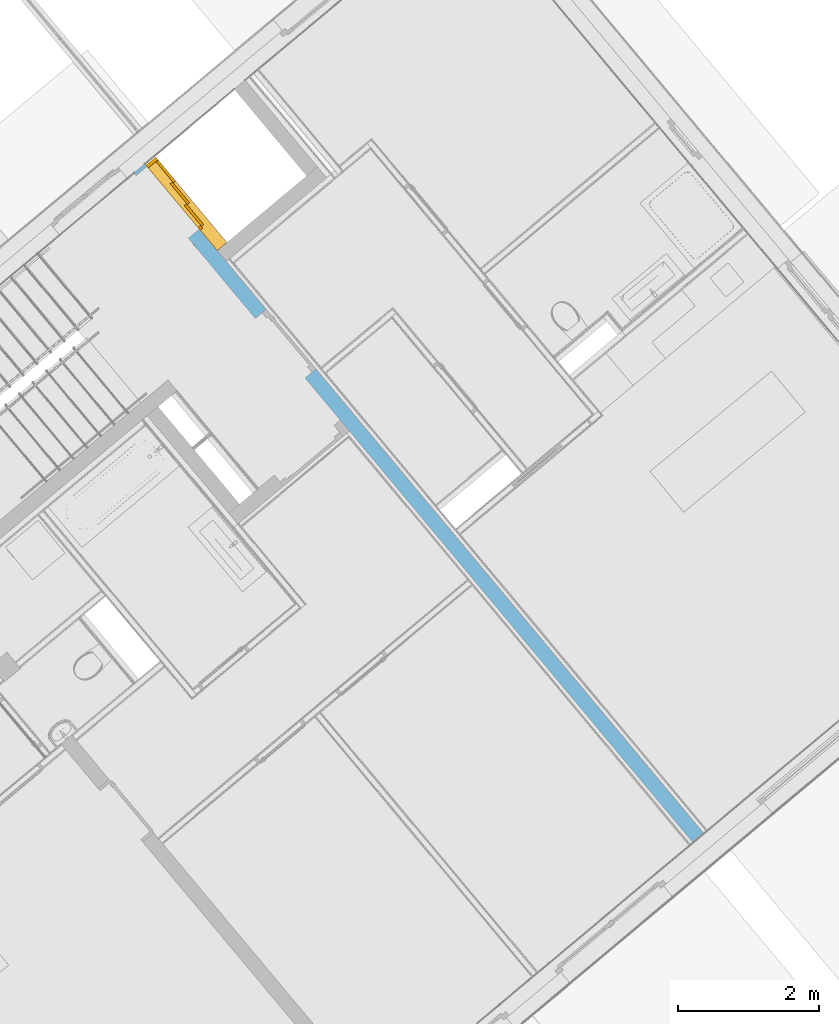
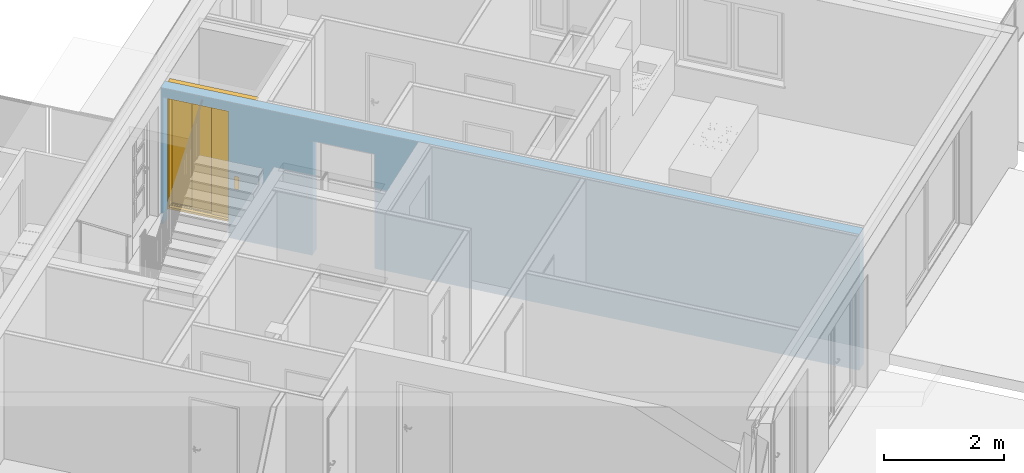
# One storey, part 9 of 75: 1 door, 2 openings, plus 1 element that does not belong to this part.
"""IFC4 building model written with IfcOpenShell, lengths in metres."""

from ifc_helpers import new_model, entity, si_unit, converted_unit, derived_unit, direction, frame, origin_with_axes, place, context, subcontext, project, spatial, polygons, source, transform, mapped, material, type_object, element, fill, save


model = new_model("IFC4")

# Units and contexts
model_context = context("Model", 3, precision=1e-05, world=origin_with_axes(), true_north=direction((0.0, 1.0)))
body_context = subcontext(model_context, "Body", "Model", "MODEL_VIEW")
ifc_project = project(units=[si_unit("LENGTHUNIT", "METRE"), si_unit("AREAUNIT", "SQUARE_METRE"), si_unit("VOLUMEUNIT", "CUBIC_METRE"), converted_unit("PLANEANGLEUNIT", "DEGREE", entity("IfcPlaneAngleMeasure", 0.0174532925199), si_unit("PLANEANGLEUNIT", "RADIAN"), dimensions=[0, 0, 0, 0, 0, 0, 0]), converted_unit("TIMEUNIT", "Year", entity("IfcTimeMeasure", 31556926.0), si_unit("TIMEUNIT", "SECOND"), dimensions=[0, 0, 1, 0, 0, 0, 0]), si_unit("MASSUNIT", "GRAM", prefix="KILO"), si_unit("THERMODYNAMICTEMPERATUREUNIT", "DEGREE_CELSIUS"), si_unit("LUMINOUSINTENSITYUNIT", "LUMEN"), si_unit("ENERGYUNIT", "JOULE", prefix="MEGA"), derived_unit("THERMALCONDUCTANCEUNIT", [(si_unit("POWERUNIT", "WATT"), 1), (si_unit("LENGTHUNIT", "METRE"), -1), (si_unit("THERMODYNAMICTEMPERATUREUNIT", "KELVIN"), -1)]), derived_unit("SPECIFICHEATCAPACITYUNIT", [(si_unit("ENERGYUNIT", "JOULE"), 1), (si_unit("MASSUNIT", "GRAM", prefix="KILO"), -1), (si_unit("THERMODYNAMICTEMPERATUREUNIT", "KELVIN"), -1)]), derived_unit("MASSDENSITYUNIT", [(si_unit("MASSUNIT", "GRAM", prefix="KILO"), 1), (si_unit("VOLUMEUNIT", "CUBIC_METRE"), -1)])], contexts=[model_context])

# Site, building, storey
site_placement = place(None, frame((-0.00153261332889, -0.00661245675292, 0.0), z_axis=(0.0, 0.0, 1.0), x_axis=(1.0, 0.0, 0.0)))
site = spatial("IfcSite", under=ifc_project, at=site_placement, Name="Gelände", CompositionType="ELEMENT")
building_placement = place(site_placement, origin_with_axes())
building = spatial("IfcBuilding", under=site, at=building_placement, Name="Gebäude", CompositionType="ELEMENT")
storey_placement = place(building_placement, frame((0.0, 0.0, -0.22), z_axis=(0.0, 0.0, 1.0), x_axis=(1.0, 0.0, 0.0)))
storey = spatial("IfcBuildingStorey", under=building, at=storey_placement, Name="EG", CompositionType="ELEMENT", Elevation=-0.22)

# Wall, openings, door
ifc_material = material(Name="Stahlbeton Wand")
wall_type = type_object("IfcWallType", Name="Stahlbeton Wand 200", PredefinedType="NOTDEFINED")
wall_placement = place(storey_placement, frame((8.26096619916, 16.5219342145, 0.0), z_axis=(0.0, 0.0, 1.0), x_axis=(-0.640845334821, 0.767670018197, 0.0)))
wall = element("IfcWall", 1, at=wall_placement, inside=storey, type_object=wall_type, material=ifc_material, Name="Wand-003", PredefinedType="NOTDEFINED", context=body_context, shape_type="Tessellation", body=[
    polygons([(12.3191850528, 4.58202649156e-08, 2.57), (12.3191850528, 9.38576860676e-09, 0.22), (12.3191850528, 9.38576505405e-09, 0.0), (12.3653297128, 0.0, 0.0), (12.3653297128, 0.0, 2.76), (0.0, 0.0, 2.76), (0.0, 0.0, 0.0), (8.58020969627, 4.58202684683e-08, 0.0), (8.58020969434, 4.58202684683e-08, 0.22), (8.58020969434, 4.5820272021e-08, 2.32), (9.68020969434, 4.58202684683e-08, 2.32), (9.68020969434, 1.84487696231e-08, 0.22), (9.68020969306, 1.84487696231e-08, 0.0), (11.1591850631, 4.1292480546e-10, 0.0), (11.1591850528, 4.1292480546e-10, 0.22), (11.1591850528, 4.58202684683e-08, 2.57), (12.3191850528, 0.2, 2.57), (12.3191850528, 0.2, 0.22), (12.3191850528, 0.2, 0.0), (12.3652348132, 0.2, 0.0), (12.3652348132, 0.2, 2.76), (0.0, 0.2, 2.76), (0.0, 0.2, 0.0), (8.58020969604, 0.2, 0.0), (8.58020969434, 0.2, 0.22), (8.58020969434, 0.075, 0.22), (8.58020969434, 0.2, 2.32), (9.68020969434, 0.2, 2.32), (9.68020969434, 0.2, 0.22), (9.68020969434, 0.075, 0.22), (9.68020969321, 0.2, 0.0), (11.1591850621, 0.2, 0.0), (11.1591850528, 0.2, 0.22), (11.1591850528, 0.2, 2.57)], [[[1, 2, 3, 4, 5, 6, 7, 8, 9, 10, 11, 12, 13, 14, 15, 16]], [[2, 1, 17, 18]], [[2, 18, 19, 3]], [[20, 4, 3, 19]], [[20, 21, 5, 4]], [[21, 22, 6, 5]], [[23, 7, 6, 22]], [[7, 23, 24, 8]], [[8, 24, 25, 26, 9]], [[26, 25, 27, 10, 9]], [[10, 27, 28, 11]], [[11, 28, 29, 30, 12]], [[29, 31, 13, 12, 30]], [[13, 31, 32, 14]], [[33, 15, 14, 32]], [[16, 15, 33, 34]], [[1, 16, 34, 17]], [[34, 33, 32, 31, 29, 28, 27, 25, 24, 23, 22, 21, 20, 19, 18, 17]]], closed=True),
])
opening_1_placement = place(wall_placement, frame((9.13020969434, 0.0, 0.22), z_axis=(0.0, 0.0, 1.0), x_axis=(1.0, 0.0, 0.0)))
element("IfcOpeningElement", 2, at=opening_1_placement, cuts=wall, Name="Tür-001", context=body_context, identifier="Reference", shape_type="Tessellation", body=[
    polygons([(-0.55, 0.075, -0.22), (-0.55, 0.075, 2.1), (-0.55, 6.48838227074, 2.1), (-0.55, 6.48838227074, -0.22), (-0.55, -6.28838227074, -0.22), (-0.55, -6.28838227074, 2.1), (0.55, 0.075, 2.1), (0.55, 6.48838227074, 2.1), (0.55, -6.28838227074, 2.1), (0.55, 6.48838227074, -0.22), (0.55, 0.075, -0.22), (0.55, -6.28838227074, -0.22)], [[[1, 2, 3, 4]], [[2, 1, 5, 6]], [[7, 8, 3, 2, 6, 9]], [[8, 10, 4, 3]], [[1, 4, 10, 11, 12, 5]], [[6, 5, 12, 9]], [[7, 11, 10, 8]], [[11, 7, 9, 12]]], closed=True),
])
opening_2_placement = place(wall_placement, frame((11.7391850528, 0.0, 0.22), z_axis=(0.0, 0.0, 1.0), x_axis=(1.0, 0.0, 0.0)))
opening_2 = element("IfcOpeningElement", 3, at=opening_2_placement, cuts=wall, Name="Tür-003", context=body_context, identifier="Reference", shape_type="Tessellation", body=[
    polygons([(0.58, 6.48838227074, 2.35), (0.58, 6.48838227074, -0.22), (-0.58, 6.48838227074, -0.22), (-0.58, 6.48838227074, 2.35), (0.58, -6.28838227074, 2.35), (0.58, -6.28838227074, -0.22), (-0.58, -6.28838227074, -0.22), (-0.58, -6.28838227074, 2.35)], [[[1, 2, 3, 4]], [[5, 6, 2, 1]], [[6, 7, 3, 2]], [[7, 8, 4, 3]], [[8, 5, 1, 4]], [[7, 6, 5, 8]]], closed=True),
])
door_type = type_object("IfcDoorType", Name="Teleskoptür 26", OperationType="DOUBLE_DOOR_SLIDING", PredefinedType="NOTDEFINED")
shared_shape = source(origin_with_axes(), body_context, "Body", "Tessellation", [
    polygons([(0.975, 0.135, 2.2), (-0.6, 0.135, 2.2), (-0.6, 0.135, 2.238), (0.975, 0.135, 2.238), (0.975, 0.0, 2.2), (-0.6, 0.0, 2.2), (-0.6, 0.0, 2.48), (-0.6, 0.18, 2.48), (-0.6, 0.18, 2.477), (-0.6, 0.003, 2.477), (-0.6, 0.003, 2.203), (-0.6, 0.132, 2.203), (-0.6, 0.132, 2.238), (0.975, 0.132, 2.238), (0.975, 0.132, 2.203), (0.975, 0.003, 2.203), (0.975, 0.003, 2.477), (0.975, 0.18, 2.477), (0.975, 0.18, 2.48), (0.975, 0.0, 2.48)], [[[1, 2, 3, 4]], [[5, 6, 2, 1]], [[2, 6, 7, 8, 9, 10, 11, 12, 13, 3]], [[4, 3, 13, 14]], [[1, 4, 14, 15, 16, 17, 18, 19, 20, 5]], [[20, 7, 6, 5]], [[19, 8, 7, 20]], [[18, 9, 8, 19]], [[17, 10, 9, 18]], [[16, 11, 10, 17]], [[15, 12, 11, 16]], [[14, 13, 12, 15]]], closed=True),
    polygons([(0.975, 0.05, 2.203), (-0.6, 0.05, 2.203), (-0.6, 0.055, 2.203), (0.975, 0.055, 2.203), (0.975, 0.05, 2.44), (-0.6, 0.05, 2.44), (-0.6, 0.055, 2.44), (0.975, 0.055, 2.44)], [[[1, 2, 3, 4]], [[5, 6, 2, 1]], [[2, 6, 7, 3]], [[4, 3, 7, 8]], [[1, 4, 8, 5]], [[8, 7, 6, 5]]], closed=True),
    polygons([(0.975, 0.05, 2.43), (-0.6, 0.05, 2.43), (-0.6, 0.04, 2.43), (0.975, 0.04, 2.43), (0.975, 0.05, 2.37), (-0.6, 0.05, 2.37), (-0.6, 0.04, 2.37), (0.975, 0.04, 2.37)], [[[1, 2, 3, 4]], [[5, 6, 2, 1]], [[2, 6, 7, 3]], [[4, 3, 7, 8]], [[1, 4, 8, 5]], [[8, 7, 6, 5]]], closed=True),
    polygons([(0.975, 0.05, 2.3), (-0.6, 0.05, 2.3), (-0.6, 0.04, 2.3), (0.975, 0.04, 2.3), (0.975, 0.05, 2.26), (-0.6, 0.05, 2.26), (-0.6, 0.04, 2.26), (0.975, 0.04, 2.26)], [[[1, 2, 3, 4]], [[5, 6, 2, 1]], [[2, 6, 7, 3]], [[4, 3, 7, 8]], [[1, 4, 8, 5]], [[8, 7, 6, 5]]], closed=True),
    polygons([(0.975, 0.05, 2.37), (-0.6, 0.05, 2.37), (-0.6, 0.03, 2.37), (0.975, 0.03, 2.37), (0.975, 0.05, 2.3), (-0.6, 0.05, 2.3), (-0.6, 0.03, 2.3), (0.975, 0.03, 2.3)], [[[1, 2, 3, 4]], [[5, 6, 2, 1]], [[2, 6, 7, 3]], [[4, 3, 7, 8]], [[1, 4, 8, 5]], [[8, 7, 6, 5]]], closed=True),
    polygons([(0.975, 0.095, 2.203), (-0.6, 0.095, 2.203), (-0.6, 0.1, 2.203), (0.975, 0.1, 2.203), (0.975, 0.095, 2.44), (-0.6, 0.095, 2.44), (-0.6, 0.1, 2.44), (0.975, 0.1, 2.44)], [[[1, 2, 3, 4]], [[5, 6, 2, 1]], [[2, 6, 7, 3]], [[4, 3, 7, 8]], [[1, 4, 8, 5]], [[8, 7, 6, 5]]], closed=True),
    polygons([(0.975, 0.095, 2.43), (-0.6, 0.095, 2.43), (-0.6, 0.085, 2.43), (0.975, 0.085, 2.43), (0.975, 0.095, 2.37), (-0.6, 0.095, 2.37), (-0.6, 0.085, 2.37), (0.975, 0.085, 2.37)], [[[1, 2, 3, 4]], [[5, 6, 2, 1]], [[2, 6, 7, 3]], [[4, 3, 7, 8]], [[1, 4, 8, 5]], [[8, 7, 6, 5]]], closed=True),
    polygons([(0.975, 0.095, 2.3), (-0.6, 0.095, 2.3), (-0.6, 0.085, 2.3), (0.975, 0.085, 2.3), (0.975, 0.095, 2.26), (-0.6, 0.095, 2.26), (-0.6, 0.085, 2.26), (0.975, 0.085, 2.26)], [[[1, 2, 3, 4]], [[5, 6, 2, 1]], [[2, 6, 7, 3]], [[4, 3, 7, 8]], [[1, 4, 8, 5]], [[8, 7, 6, 5]]], closed=True),
    polygons([(0.975, 0.095, 2.37), (-0.6, 0.095, 2.37), (-0.6, 0.075, 2.37), (0.975, 0.075, 2.37), (0.975, 0.095, 2.3), (-0.6, 0.095, 2.3), (-0.6, 0.075, 2.3), (0.975, 0.075, 2.3)], [[[1, 2, 3, 4]], [[5, 6, 2, 1]], [[2, 6, 7, 3]], [[4, 3, 7, 8]], [[1, 4, 8, 5]], [[8, 7, 6, 5]]], closed=True),
    polygons([(0.975, 0.14, 2.203), (-0.6, 0.14, 2.203), (-0.6, 0.145, 2.203), (0.975, 0.145, 2.203), (0.975, 0.14, 2.44), (-0.6, 0.14, 2.44), (-0.6, 0.145, 2.44), (0.975, 0.145, 2.44)], [[[1, 2, 3, 4]], [[5, 6, 2, 1]], [[2, 6, 7, 3]], [[4, 3, 7, 8]], [[1, 4, 8, 5]], [[8, 7, 6, 5]]], closed=True),
    polygons([(0.975, 0.14, 2.43), (-0.6, 0.14, 2.43), (-0.6, 0.13, 2.43), (0.975, 0.13, 2.43), (0.975, 0.14, 2.37), (-0.6, 0.14, 2.37), (-0.6, 0.13, 2.37), (0.975, 0.13, 2.37)], [[[1, 2, 3, 4]], [[5, 6, 2, 1]], [[2, 6, 7, 3]], [[4, 3, 7, 8]], [[1, 4, 8, 5]], [[8, 7, 6, 5]]], closed=True),
    polygons([(0.975, 0.14, 2.3), (-0.6, 0.14, 2.3), (-0.6, 0.13, 2.3), (0.975, 0.13, 2.3), (0.975, 0.14, 2.26), (-0.6, 0.14, 2.26), (-0.6, 0.13, 2.26), (0.975, 0.13, 2.26)], [[[1, 2, 3, 4]], [[5, 6, 2, 1]], [[2, 6, 7, 3]], [[4, 3, 7, 8]], [[1, 4, 8, 5]], [[8, 7, 6, 5]]], closed=True),
    polygons([(0.975, 0.14, 2.37), (-0.6, 0.14, 2.37), (-0.6, 0.12, 2.37), (0.975, 0.12, 2.37), (0.975, 0.14, 2.3), (-0.6, 0.14, 2.3), (-0.6, 0.12, 2.3), (0.975, 0.12, 2.3)], [[[1, 2, 3, 4]], [[5, 6, 2, 1]], [[2, 6, 7, 3]], [[4, 3, 7, 8]], [[1, 4, 8, 5]], [[8, 7, 6, 5]]], closed=True),
    polygons([(0.975, 0.0, 0.0), (-0.6, 0.0, 0.0), (-0.6, 0.0, -0.04), (0.975, 0.0, -0.04), (0.975, 0.065, 0.0), (-0.6, 0.065, 0.0), (-0.6, 0.065, -0.01), (-0.6, 0.075, -0.01), (-0.6, 0.075, 0.0), (-0.6, 0.11, 0.0), (-0.6, 0.11, -0.01), (-0.6, 0.12, -0.01), (-0.6, 0.12, 0.0), (-0.6, 0.155, 0.0), (-0.6, 0.155, -0.01), (-0.6, 0.165, -0.01), (-0.6, 0.165, 0.0), (-0.6, 0.18, 0.0), (-0.6, 0.18, -0.04), (0.975, 0.18, -0.04), (0.975, 0.18, 0.0), (0.975, 0.165, 0.0), (0.975, 0.165, -0.01), (0.975, 0.155, -0.01), (0.975, 0.155, 0.0), (0.975, 0.12, 0.0), (0.975, 0.12, -0.01), (0.975, 0.11, -0.01), (0.975, 0.11, 0.0), (0.975, 0.075, 0.0), (0.975, 0.075, -0.01), (0.975, 0.065, -0.01)], [[[1, 2, 3, 4]], [[5, 6, 2, 1]], [[2, 6, 7, 8, 9, 10, 11, 12, 13, 14, 15, 16, 17, 18, 19, 3]], [[4, 3, 19, 20]], [[1, 4, 20, 21, 22, 23, 24, 25, 26, 27, 28, 29, 30, 31, 32, 5]], [[32, 7, 6, 5]], [[31, 8, 7, 32]], [[30, 9, 8, 31]], [[29, 10, 9, 30]], [[28, 11, 10, 29]], [[27, 12, 11, 28]], [[26, 13, 12, 27]], [[25, 14, 13, 26]], [[24, 15, 14, 25]], [[23, 16, 15, 24]], [[22, 17, 16, 23]], [[21, 18, 17, 22]], [[20, 19, 18, 21]]], closed=True),
    polygons([(0.55, 0.0, 0.0), (0.55, 0.0, 2.2), (0.55, 0.045, 2.2), (0.55, 0.045, 0.0), (0.6, 0.0, 0.0), (0.6, 0.0, 2.2), (0.6, 0.045, 2.2), (0.6, 0.045, 0.0)], [[[1, 2, 3, 4]], [[5, 6, 2, 1]], [[2, 6, 7, 3]], [[4, 3, 7, 8]], [[1, 4, 8, 5]], [[8, 7, 6, 5]]], closed=True),
    polygons([(-0.6, 0.0, 0.0), (-0.6, 0.0, 2.2), (-0.6, 0.18, 2.2), (-0.6, 0.18, 0.0), (-0.55, 0.0, 0.0), (-0.55, 0.0, 2.2), (-0.55, 0.18, 2.2), (-0.55, 0.18, 0.0)], [[[1, 2, 3, 4]], [[5, 6, 2, 1]], [[2, 6, 7, 3]], [[4, 3, 7, 8]], [[1, 4, 8, 5]], [[8, 7, 6, 5]]], closed=True),
    polygons([(0.68, -0.2, 0.8), (0.76, -0.2, 0.8), (0.76, -0.203, 0.8), (0.68, -0.203, 0.8), (0.68, -0.2, 1.06), (0.76, -0.2, 1.06), (0.69, -0.2, 1.03), (0.69, -0.2, 0.94), (0.75, -0.2, 0.94), (0.75, -0.2, 1.03), (0.71, -0.2, 0.84), (0.73, -0.2, 0.84), (0.73, -0.2, 0.86), (0.71, -0.2, 0.86), (0.71, -0.2, 0.88), (0.73, -0.2, 0.88), (0.73, -0.2, 0.9), (0.71, -0.2, 0.9), (0.76, -0.203, 1.06), (0.68, -0.203, 1.06), (0.69, -0.203, 1.03), (0.75, -0.203, 1.03), (0.75, -0.203, 0.94), (0.69, -0.203, 0.94), (0.71, -0.203, 0.84), (0.71, -0.203, 0.86), (0.73, -0.203, 0.86), (0.73, -0.203, 0.84), (0.71, -0.203, 0.88), (0.71, -0.203, 0.9), (0.73, -0.203, 0.9), (0.73, -0.203, 0.88)], [[[1, 2, 3, 4]], [[1, 5, 6, 2], [7, 8, 9, 10], [11, 12, 13, 14], [15, 16, 17, 18]], [[2, 6, 19, 3]], [[4, 3, 19, 20], [21, 22, 23, 24], [25, 26, 27, 28], [29, 30, 31, 32]], [[5, 1, 4, 20]], [[6, 5, 20, 19]], [[8, 7, 21, 24]], [[9, 8, 24, 23]], [[10, 9, 23, 22]], [[7, 10, 22, 21]], [[12, 11, 25, 28]], [[13, 12, 28, 27]], [[14, 13, 27, 26]], [[11, 14, 26, 25]], [[16, 15, 29, 32]], [[17, 16, 32, 31]], [[18, 17, 31, 30]], [[15, 18, 30, 29]]], closed=True),
    polygons([(0.69, -0.2, 0.94), (0.75, -0.2, 0.94), (0.75, -0.2025, 0.94), (0.69, -0.2025, 0.94), (0.69, -0.2, 1.03), (0.75, -0.2, 1.03), (0.75, -0.2025, 1.03), (0.69, -0.2025, 1.03)], [[[1, 2, 3, 4]], [[1, 5, 6, 2]], [[2, 6, 7, 3]], [[4, 3, 7, 8]], [[5, 1, 4, 8]], [[6, 5, 8, 7]]], closed=True),
    polygons([(0.704, -0.203, 1.005), (0.71, -0.203, 1.021), (0.716, -0.203, 1.005)], [[[1, 2, 3]]], closed=False),
    polygons([(0.73, -0.203, 1.005), (0.724, -0.203, 1.021), (0.736, -0.203, 1.021)], [[[1, 2, 3]]], closed=False),
    polygons([(0.717272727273, -0.2035, 0.982), (0.717272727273, -0.2035, 0.971636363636), (0.715909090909, -0.2035, 0.970272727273), (0.714545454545, -0.2035, 0.971636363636), (0.714545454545, -0.2035, 0.982), (0.715909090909, -0.2035, 0.983363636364)], [[[1, 2, 3, 4, 5, 6]]], closed=False),
    polygons([(0.717272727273, -0.2035, 0.968363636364), (0.717272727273, -0.2035, 0.958), (0.715909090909, -0.2035, 0.956636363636), (0.714545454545, -0.2035, 0.958), (0.714545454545, -0.2035, 0.968363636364), (0.715909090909, -0.2035, 0.969727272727)], [[[1, 2, 3, 4, 5, 6]]], closed=False),
    polygons([(0.736090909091, -0.2035, 0.982272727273), (0.725727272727, -0.2035, 0.982272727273), (0.724363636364, -0.2035, 0.983636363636), (0.725727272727, -0.2035, 0.985), (0.736090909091, -0.2035, 0.985), (0.737454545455, -0.2035, 0.983636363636)], [[[1, 2, 3, 4, 5, 6]]], closed=False),
    polygons([(0.739090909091, -0.2035, 0.982), (0.739090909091, -0.2035, 0.971636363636), (0.737727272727, -0.2035, 0.970272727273), (0.736363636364, -0.2035, 0.971636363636), (0.736363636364, -0.2035, 0.982), (0.737727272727, -0.2035, 0.983363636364)], [[[1, 2, 3, 4, 5, 6]]], closed=False),
    polygons([(0.736090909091, -0.2035, 0.968636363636), (0.725727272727, -0.2035, 0.968636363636), (0.724363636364, -0.2035, 0.97), (0.725727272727, -0.2035, 0.971363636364), (0.736090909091, -0.2035, 0.971363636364), (0.737454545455, -0.2035, 0.97)], [[[1, 2, 3, 4, 5, 6]]], closed=False),
    polygons([(0.725454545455, -0.2035, 0.968363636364), (0.725454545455, -0.2035, 0.958), (0.724090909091, -0.2035, 0.956636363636), (0.722727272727, -0.2035, 0.958), (0.722727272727, -0.2035, 0.968363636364), (0.724090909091, -0.2035, 0.969727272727)], [[[1, 2, 3, 4, 5, 6]]], closed=False),
    polygons([(0.736090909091, -0.2035, 0.955), (0.725727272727, -0.2035, 0.955), (0.724363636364, -0.2035, 0.956363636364), (0.725727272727, -0.2035, 0.957727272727), (0.736090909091, -0.2035, 0.957727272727), (0.737454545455, -0.2035, 0.956363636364)], [[[1, 2, 3, 4, 5, 6]]], closed=False),
    polygons([(0.73, -0.2, 0.84), (0.71, -0.2, 0.84), (0.71, -0.2, 0.86), (0.73, -0.2, 0.86), (0.730000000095, -0.2015, 0.83999999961), (0.70999999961, -0.2015, 0.83999999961), (0.70999999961, -0.2015, 0.860000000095), (0.730000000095, -0.2015, 0.860000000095), (0.728599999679, -0.202900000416, 0.841400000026), (0.711400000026, -0.202900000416, 0.841400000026), (0.711400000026, -0.202900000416, 0.858599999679), (0.728599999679, -0.202900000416, 0.858599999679)], [[[1, 2, 3, 4]], [[2, 1, 5, 6]], [[3, 2, 6, 7]], [[4, 3, 7, 8]], [[1, 4, 8, 5]], [[6, 5, 9, 10]], [[7, 6, 10, 11]], [[8, 7, 11, 12]], [[5, 8, 12, 9]], [[11, 10, 9, 12]]], closed=True),
    polygons([(0.725, -0.203, 0.855), (0.72, -0.203, 0.844), (0.715, -0.203, 0.855)], [[[1, 2, 3]]], closed=False),
    polygons([(0.73, -0.2, 0.88), (0.71, -0.2, 0.88), (0.71, -0.2, 0.9), (0.73, -0.2, 0.9), (0.730000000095, -0.2015, 0.87999999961), (0.70999999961, -0.2015, 0.87999999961), (0.70999999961, -0.2015, 0.900000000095), (0.730000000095, -0.2015, 0.900000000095), (0.728599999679, -0.202900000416, 0.881400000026), (0.711400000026, -0.202900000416, 0.881400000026), (0.711400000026, -0.202900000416, 0.898599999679), (0.728599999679, -0.202900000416, 0.898599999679)], [[[1, 2, 3, 4]], [[2, 1, 5, 6]], [[3, 2, 6, 7]], [[4, 3, 7, 8]], [[1, 4, 8, 5]], [[6, 5, 9, 10]], [[7, 6, 10, 11]], [[8, 7, 11, 12]], [[5, 8, 12, 9]], [[11, 10, 9, 12]]], closed=True),
    polygons([(0.725, -0.203, 0.885), (0.715, -0.203, 0.885), (0.72, -0.203, 0.896)], [[[1, 2, 3]]], closed=False),
    polygons([(-0.16, 0.14, 0.003), (-0.545, 0.14, 0.003), (-0.545, 0.18, 0.003), (-0.16, 0.18, 0.003), (-0.16, 0.14, 2.2), (-0.545, 0.14, 2.2), (-0.545, 0.18, 2.2), (-0.16, 0.18, 2.2)], [[[1, 2, 3, 4]], [[1, 5, 6, 2]], [[2, 6, 7, 3]], [[4, 3, 7, 8]], [[5, 1, 4, 8]], [[6, 5, 8, 7]]], closed=True),
    polygons([(0.205, 0.095, 0.003), (-0.18, 0.095, 0.003), (-0.18, 0.135, 0.003), (0.205, 0.135, 0.003), (0.205, 0.095, 2.2), (-0.18, 0.095, 2.2), (-0.18, 0.135, 2.2), (0.205, 0.135, 2.2)], [[[1, 2, 3, 4]], [[1, 5, 6, 2]], [[2, 6, 7, 3]], [[4, 3, 7, 8]], [[5, 1, 4, 8]], [[6, 5, 8, 7]]], closed=True),
    polygons([(0.57, 0.05, 0.003), (0.185, 0.05, 0.003), (0.185, 0.09, 0.003), (0.57, 0.09, 0.003), (0.57, 0.05, 2.2), (0.185, 0.05, 2.2), (0.185, 0.09, 2.2), (0.57, 0.09, 2.2)], [[[1, 2, 3, 4]], [[1, 5, 6, 2]], [[2, 6, 7, 3]], [[4, 3, 7, 8]], [[5, 1, 4, 8]], [[6, 5, 8, 7]]], closed=True),
])
door_placement = place(opening_2_placement, frame((0.55, 0.0, 0.0), z_axis=(0.0, 0.0, 1.0), x_axis=(-1.0, 0.0, 0.0)))
door = element("IfcDoor", 4, at=door_placement, inside=storey, type_object=door_type, Name="Tür-003", OverallHeight=2.57, OverallWidth=1.16, PredefinedType="NOTDEFINED", context=body_context, shape_type="MappedRepresentation", body=[
    mapped(shared_shape, transform((0.55, 0.0, 0.0))),
])
fill(opening_2, door)

save(model, "model.ifc")
